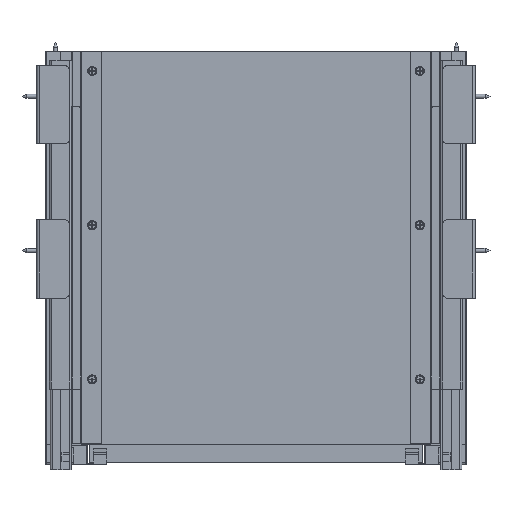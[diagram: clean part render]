
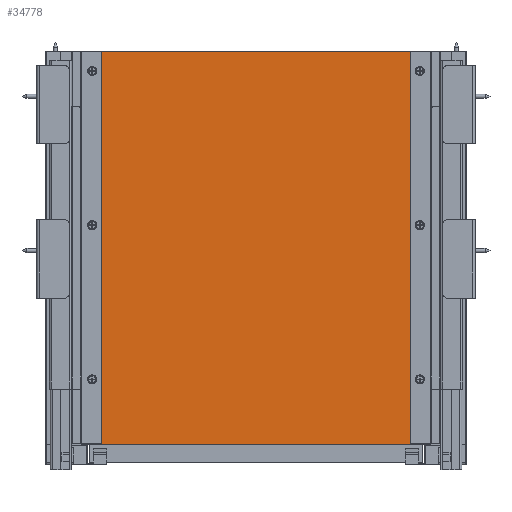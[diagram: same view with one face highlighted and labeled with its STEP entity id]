
A CAD part, front view. The second image highlights one B-rep face of the part: STEP entity #34778.
In plain terms, the highlighted planar face has unit normal (0, -1, 0).
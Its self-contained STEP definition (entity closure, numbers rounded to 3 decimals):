
#3368=FACE_OUTER_BOUND('',#5490,.T.);
#5490=EDGE_LOOP('',(#29763,#29764,#29765,#29766));
#8962=LINE('',#56832,#12876);
#8963=LINE('',#56835,#12877);
#8964=LINE('',#56837,#12878);
#8965=LINE('',#56838,#12879);
#12876=VECTOR('',#44694,10.);
#12877=VECTOR('',#44697,10.);
#12878=VECTOR('',#44698,10.);
#12879=VECTOR('',#44699,10.);
#16405=VERTEX_POINT('',#56825);
#16408=VERTEX_POINT('',#56830);
#16409=VERTEX_POINT('',#56834);
#16410=VERTEX_POINT('',#56836);
#20974=EDGE_CURVE('',#16405,#16408,#8962,.T.);
#20975=EDGE_CURVE('',#16409,#16405,#8963,.T.);
#20976=EDGE_CURVE('',#16410,#16408,#8964,.T.);
#20977=EDGE_CURVE('',#16409,#16410,#8965,.T.);
#29763=ORIENTED_EDGE('',*,*,#20975,.T.);
#29764=ORIENTED_EDGE('',*,*,#20974,.T.);
#29765=ORIENTED_EDGE('',*,*,#20976,.F.);
#29766=ORIENTED_EDGE('',*,*,#20977,.F.);
#32976=PLANE('',#37266);
#34778=ADVANCED_FACE('',(#3368),#32976,.T.);
#37266=AXIS2_PLACEMENT_3D('',#56833,#44695,#44696);
#44694=DIRECTION('',(0.,0.,-1.));
#44695=DIRECTION('center_axis',(0.,-1.,0.));
#44696=DIRECTION('ref_axis',(-1.,0.,0.));
#44697=DIRECTION('',(-1.,0.,0.));
#44698=DIRECTION('',(-1.,0.,0.));
#44699=DIRECTION('',(0.,0.,-1.));
#56825=CARTESIAN_POINT('',(-144.5,22.,11.5));
#56830=CARTESIAN_POINT('',(-144.5,22.,-314.5));
#56832=CARTESIAN_POINT('',(-144.5,22.,11.5));
#56833=CARTESIAN_POINT('Origin',(144.5,22.,11.5));
#56834=CARTESIAN_POINT('',(144.5,22.,11.5));
#56835=CARTESIAN_POINT('',(144.5,22.,11.5));
#56836=CARTESIAN_POINT('',(144.5,22.,-314.5));
#56837=CARTESIAN_POINT('',(144.5,22.,-314.5));
#56838=CARTESIAN_POINT('',(144.5,22.,11.5));
